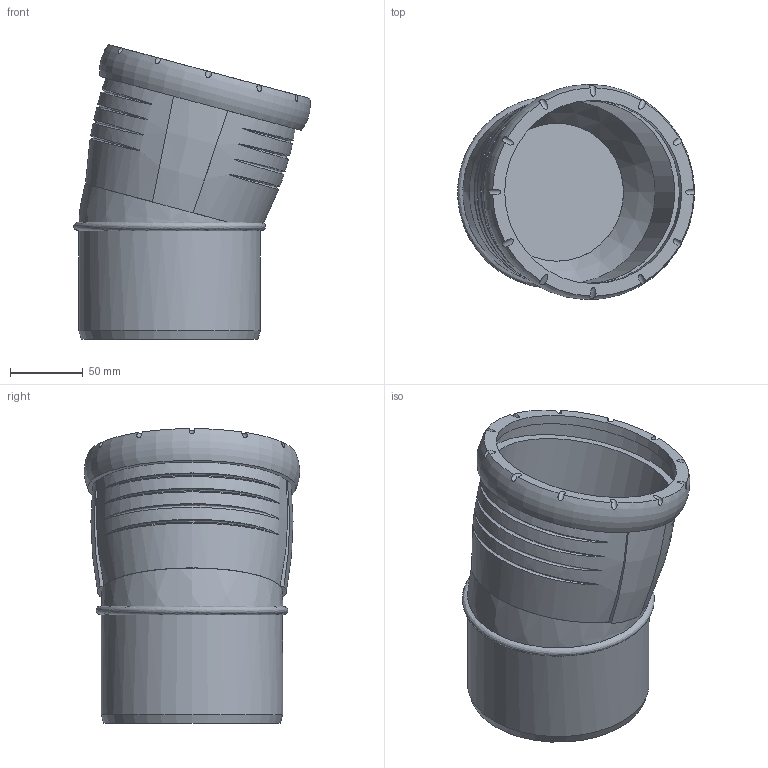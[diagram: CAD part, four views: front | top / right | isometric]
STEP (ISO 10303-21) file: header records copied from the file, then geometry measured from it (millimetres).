
FILE_DESCRIPTION(/* description */ (''),/* implementation_level */ '2;1');
FILE_NAME(/* name */ 'H:\Geberit-Teile\Export\Bogen_TEST\stp\393620.stp',/* time_stamp */ '2017-02-14T10:14:16+01:00',/* author */ ('seihe2'),/* organization */ (''),/* preprocessor_version */ 'ST-DEVELOPER v15.2',/* originating_system */ 'Autodesk Inventor 2014',/* authorisation */ '');
FILE_SCHEMA (('AUTOMOTIVE_DESIGN { 1 0 10303 214 3 1 1 }'));
Length unit declared in the file: millimetre
Products named in the file (1): 393620
Bounding box: 163.22 x 148.35 x 203.26 mm (x, y, z)
Volume: 621775 mm3; surface area: 191226.2 mm2
Topology: 2 solids, 2 shells, 54 faces, 142 edges, 99 vertices
Faces by surface type: bspline 24, cylinder 19, plane 8, cone 2, torus 1
Full cylindrical faces by diameter (mm): 95.2 x1, 115.2 x1, 125.2 x2, 126 x1, 126.4 x1, 138.1 x1
Entity records: 4178 total; most frequent: CARTESIAN_POINT 2947, ORIENTED_EDGE 262, DIRECTION 184, EDGE_CURVE 129, VERTEX_POINT 96, AXIS2_PLACEMENT_3D 92, EDGE_LOOP 78, B_SPLINE_CURVE_WITH_KNOTS 68
